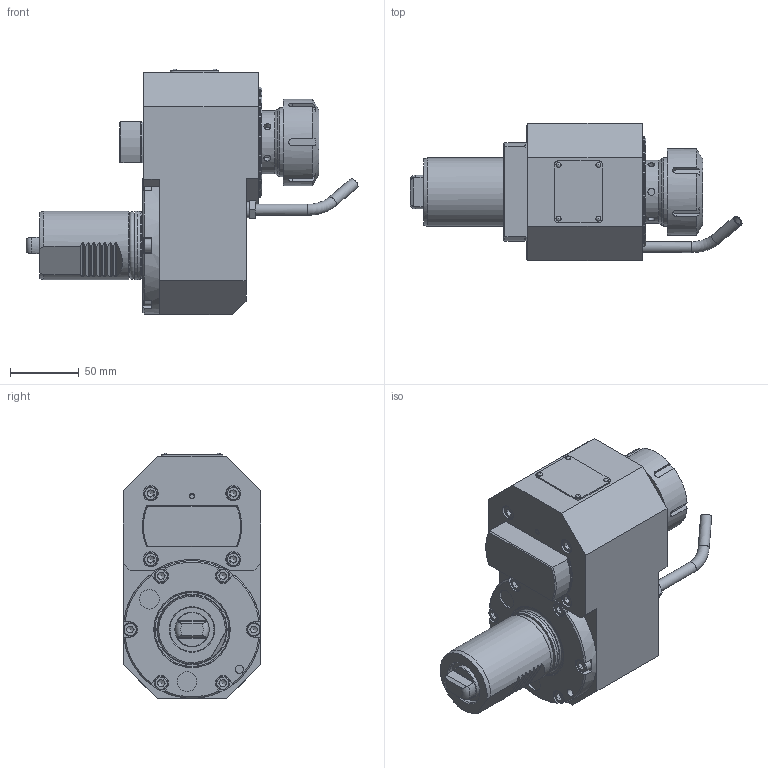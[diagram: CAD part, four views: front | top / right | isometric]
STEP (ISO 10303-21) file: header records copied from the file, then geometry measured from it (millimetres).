
FILE_DESCRIPTION(/* description */ (''),/* implementation_level */ '2;1');
FILE_NAME(/* name */ '184652',/* time_stamp */ '2020-01-15T11:41:24+01:00',/* author */ (''),/* organization */ (''),/* preprocessor_version */ 'ST-DEVELOPER v16.5',/* originating_system */ 'HiCAD 2017 2201.0 Build 268',/* authorisation */ '');
FILE_SCHEMA (('AUTOMOTIVE_DESIGN { 1 0 10303 214 1 1 1 1 }'));
Length unit declared in the file: millimetre
Products named in the file (19): Root; Teil; DIN 13-M12x1; GEWINDE; DIN 13-M50x1,5; DIN 76-M8; Normteilgruppe _0
Assembly tree (18 placements, depth 3):
  Root
    Teil
      DIN 13-M12x1
      DIN 13-M12x1
      GEWINDE
      GEWINDE
      GEWINDE
      GEWINDE
      GEWINDE
      GEWINDE
      GEWINDE
      GEWINDE
      GEWINDE
      GEWINDE
      DIN 13-M50x1,5
      GEWINDE
      DIN 76-M8
      DIN 13-M50x1,5
      Normteilgruppe _0
Bounding box: 241.43 x 100 x 178.8 mm (x, y, z)
Volume: 36161.3 mm3; surface area: 142667.6 mm2
Topology: 26 solids, 28 shells, 569 faces, 1388 edges, 894 vertices
Faces by surface type: plane 341, cylinder 145, cone 54, torus 25, sphere 4
Full cylindrical faces by diameter (mm): 2 x4, 2.2 x4, 3.141 x1, 4 x1, 4.773 x14, 5 x6, 6 x17, 6.466 x4, 6.6 x4, 8 x5, 10 x10, 10.773 x2, 11 x4, 12 x1, 14.27 x2, 25 x1, 30.5 x1, 32 x1, 43.8 x2, 46 x1, 48.16 x3, 48.7 x1, 50 x5, 51 x1, 63 x1, 70 x1, 80 x1, 100 x1
Entity records: 37429 total; most frequent: CARTESIAN_POINT 12571, DIRECTION 2682, PRESENTATION_STYLE_ASSIGNMENT 2411, OVER_RIDING_STYLED_ITEM 2394, DRAUGHTING_PRE_DEFINED_CURVE_FONT 2236, CURVE_STYLE 2236, ORIENTED_EDGE 2236, COLOUR_RGB 2207
